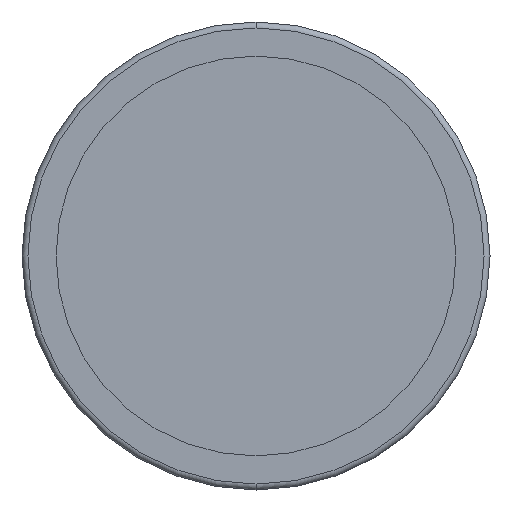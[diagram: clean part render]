
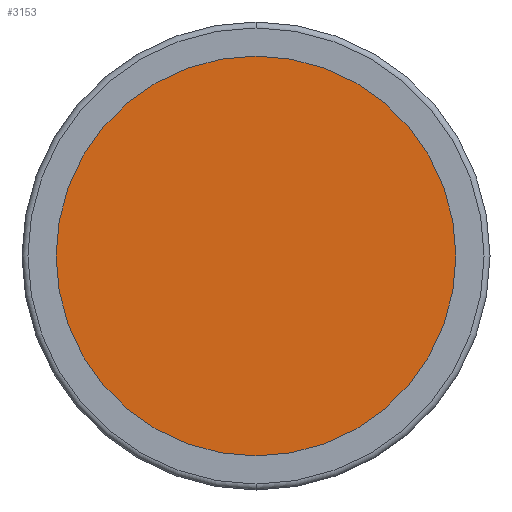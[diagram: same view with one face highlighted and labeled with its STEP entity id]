
A CAD part, front view. The second image highlights one B-rep face of the part: STEP entity #3153.
In plain terms, the highlighted planar face has unit normal (0, -1, 0).
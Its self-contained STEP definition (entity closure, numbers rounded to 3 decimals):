
#146 = CARTESIAN_POINT ( 'NONE',  ( 0., -2., -33.75 ) ) ;
#219 = DIRECTION ( 'NONE',  ( 0., 0., 1. ) ) ;
#235 = ORIENTED_EDGE ( 'NONE', *, *, #914, .F. ) ;
#354 = ORIENTED_EDGE ( 'NONE', *, *, #1718, .F. ) ;
#794 = CARTESIAN_POINT ( 'NONE',  ( 0., -2., 33.75 ) ) ;
#912 = AXIS2_PLACEMENT_3D ( 'NONE', #2068, #1407, #3061 ) ;
#914 = EDGE_CURVE ( 'NONE', #989, #3177, #1311, .T. ) ;
#989 = VERTEX_POINT ( 'NONE', #146 ) ;
#1014 = FACE_OUTER_BOUND ( 'NONE', #2648, .T. ) ;
#1019 = CIRCLE ( 'NONE', #912, 33.75 ) ;
#1311 = CIRCLE ( 'NONE', #3106, 33.75 ) ;
#1407 = DIRECTION ( 'NONE',  ( 0., 1., 0. ) ) ;
#1718 = EDGE_CURVE ( 'NONE', #3177, #989, #1019, .T. ) ;
#1964 = CARTESIAN_POINT ( 'NONE',  ( 0., -2., 0. ) ) ;
#2068 = CARTESIAN_POINT ( 'NONE',  ( 0., -2., 0. ) ) ;
#2225 = CARTESIAN_POINT ( 'NONE',  ( -33.75, -2., 0. ) ) ;
#2504 = PLANE ( 'NONE',  #2652 ) ;
#2648 = EDGE_LOOP ( 'NONE', ( #354, #235 ) ) ;
#2652 = AXIS2_PLACEMENT_3D ( 'NONE', #2225, #3151, #2991 ) ;
#2991 = DIRECTION ( 'NONE',  ( 0., 0., -1. ) ) ;
#2996 = DIRECTION ( 'NONE',  ( 0., 1., 0. ) ) ;
#3061 = DIRECTION ( 'NONE',  ( 0., 0., 1. ) ) ;
#3106 = AXIS2_PLACEMENT_3D ( 'NONE', #1964, #2996, #219 ) ;
#3151 = DIRECTION ( 'NONE',  ( 0., -1., 0. ) ) ;
#3153 = ADVANCED_FACE ( 'NONE', ( #1014 ), #2504, .T. ) ;
#3177 = VERTEX_POINT ( 'NONE', #794 ) ;
